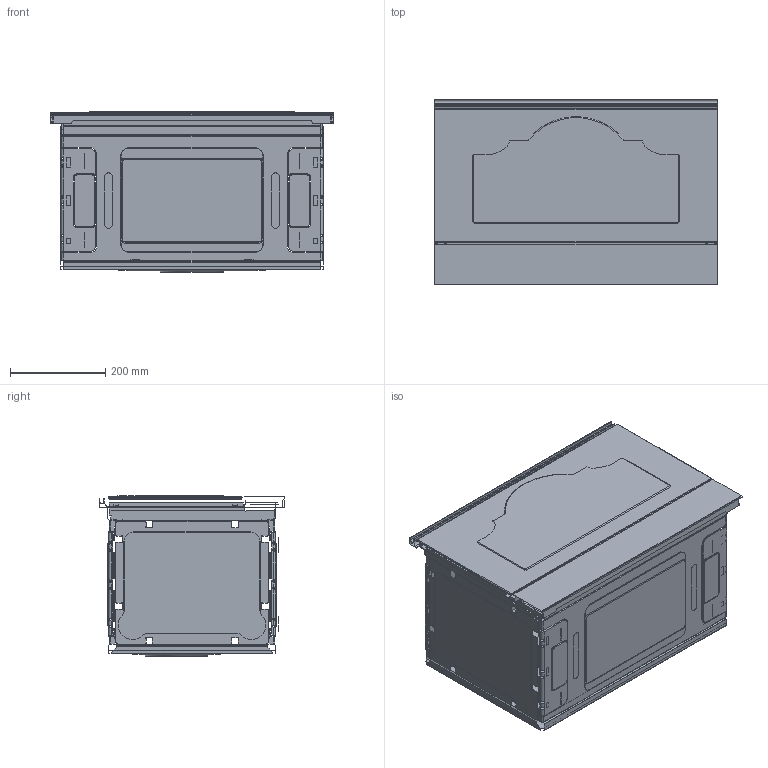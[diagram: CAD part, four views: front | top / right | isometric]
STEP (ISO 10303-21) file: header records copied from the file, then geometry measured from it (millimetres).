
FILE_DESCRIPTION((''),'2;1');
FILE_NAME('1710219_SW6','2024-11-11T14:28:13',('rui.goncalves'),('TCA'),'CREO PARAMETRIC BY PTC INC, 2022484','CREO PARAMETRIC BY PTC INC, 2022484','');
FILE_SCHEMA(('AUTOMOTIVE_DESIGN { 1 0 10303 214 1 1 1 1 }'));
Length unit declared in the file: millimetre
Products named in the file (1): 1710219_SW6
Bounding box: 595 x 389.8 x 336.41 mm (x, y, z)
Surface area: 1771128.4 mm2 (no closed solid volume)
Topology: 0 solids, 141 shells, 282 faces, 2121 edges, 1954 vertices
Faces by surface type: plane 181, cylinder 94, torus 5, cone 2
Entity records: 24918 total; most frequent: CARTESIAN_POINT 8805, DIRECTION 2833, ORIENTED_EDGE 2294, EDGE_CURVE 2121, VERTEX_POINT 1954, VECTOR 1299, LINE 1299, AXIS2_PLACEMENT_3D 767
